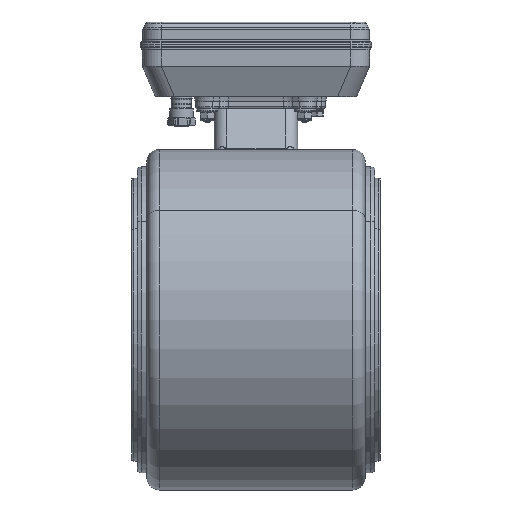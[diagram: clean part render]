
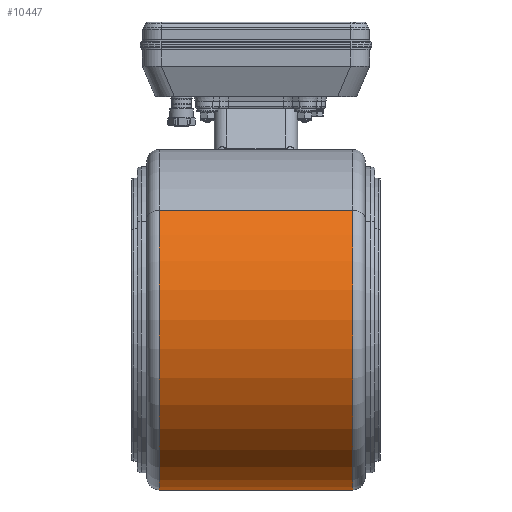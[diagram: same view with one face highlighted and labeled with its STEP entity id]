
A CAD part, front view. The second image highlights one B-rep face of the part: STEP entity #10447.
In plain terms, the highlighted cylindrical face has radius 96 mm (diameter 192 mm), a partial arc.
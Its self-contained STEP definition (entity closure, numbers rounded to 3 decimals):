
#4 = ORIENTED_EDGE ( 'NONE', *, *, #13016, .F. ) ;
#123 = ORIENTED_EDGE ( 'NONE', *, *, #17370, .T. ) ;
#182 = CARTESIAN_POINT ( 'NONE',  ( 54.5, 0., 0. ) ) ;
#276 = CARTESIAN_POINT ( 'NONE',  ( 70., 0., 96. ) ) ;
#1272 = DIRECTION ( 'NONE',  ( 0., 0., 1. ) ) ;
#1633 = DIRECTION ( 'NONE',  ( -1., 0., 0. ) ) ;
#3069 = VERTEX_POINT ( 'NONE', #5555 ) ;
#3513 = CARTESIAN_POINT ( 'NONE',  ( -54.5, 0., 96. ) ) ;
#3989 = DIRECTION ( 'NONE',  ( -1., 0., 0. ) ) ;
#4604 = DIRECTION ( 'NONE',  ( 0., 0., 1. ) ) ;
#5555 = CARTESIAN_POINT ( 'NONE',  ( 54.5, 0., 96. ) ) ;
#5855 = VERTEX_POINT ( 'NONE', #3513 ) ;
#5944 = CYLINDRICAL_SURFACE ( 'NONE', #10823, 96. ) ;
#7284 = FACE_OUTER_BOUND ( 'NONE', #12979, .T. ) ;
#8224 = VECTOR ( 'NONE', #1633, 1000. ) ;
#8269 = EDGE_CURVE ( 'NONE', #9333, #14073, #12712, .T. ) ;
#9333 = VERTEX_POINT ( 'NONE', #17312 ) ;
#9810 = LINE ( 'NONE', #276, #8224 ) ;
#10222 = EDGE_CURVE ( 'NONE', #3069, #5855, #9810, .T. ) ;
#10447 = ADVANCED_FACE ( 'CYL_0', ( #7284 ), #5944, .T. ) ;
#10823 = AXIS2_PLACEMENT_3D ( 'NONE', #11425, #16903, #4604 ) ;
#11051 = DIRECTION ( 'NONE',  ( 0., 0., 1. ) ) ;
#11236 = DIRECTION ( 'NONE',  ( -1., 0., 0. ) ) ;
#11369 = DIRECTION ( 'NONE',  ( -1., 0., 0. ) ) ;
#11425 = CARTESIAN_POINT ( 'NONE',  ( 70., 0., 0. ) ) ;
#11708 = AXIS2_PLACEMENT_3D ( 'NONE', #13583, #3989, #1272 ) ;
#11973 = CIRCLE ( 'NONE', #15135, 96. ) ;
#12712 = LINE ( 'NONE', #14069, #16472 ) ;
#12866 = ORIENTED_EDGE ( 'NONE', *, *, #10222, .T. ) ;
#12979 = EDGE_LOOP ( 'NONE', ( #16805, #123, #12866, #4 ) ) ;
#13016 = EDGE_CURVE ( 'NONE', #14073, #5855, #14562, .T. ) ;
#13583 = CARTESIAN_POINT ( 'NONE',  ( -54.5, 0., 0. ) ) ;
#14069 = CARTESIAN_POINT ( 'NONE',  ( 70., 0., -96. ) ) ;
#14073 = VERTEX_POINT ( 'NONE', #17449 ) ;
#14562 = CIRCLE ( 'NONE', #11708, 96. ) ;
#15135 = AXIS2_PLACEMENT_3D ( 'NONE', #182, #11236, #11051 ) ;
#16472 = VECTOR ( 'NONE', #11369, 1000. ) ;
#16805 = ORIENTED_EDGE ( 'NONE', *, *, #8269, .F. ) ;
#16903 = DIRECTION ( 'NONE',  ( -1., 0., 0. ) ) ;
#17312 = CARTESIAN_POINT ( 'NONE',  ( 54.5, 0., -96. ) ) ;
#17370 = EDGE_CURVE ( 'NONE', #9333, #3069, #11973, .T. ) ;
#17449 = CARTESIAN_POINT ( 'NONE',  ( -54.5, 0., -96. ) ) ;
